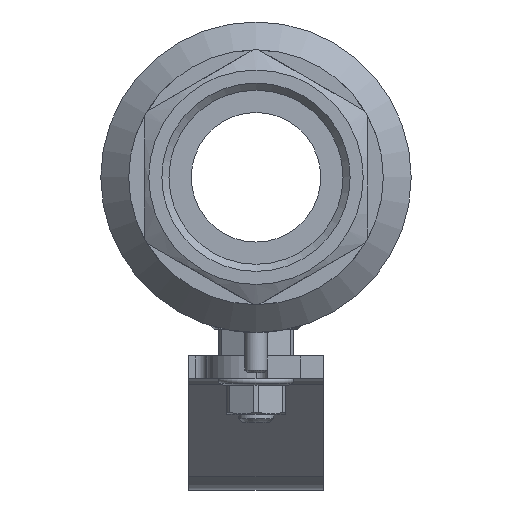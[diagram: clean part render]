
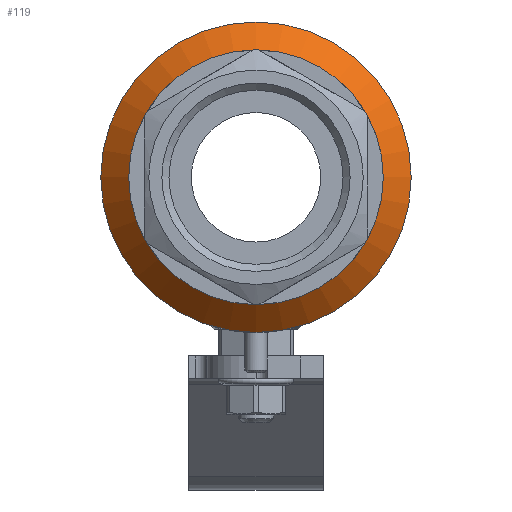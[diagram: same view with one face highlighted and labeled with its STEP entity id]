
A CAD part, left-side view. The second image highlights one B-rep face of the part: STEP entity #119.
In plain terms, the highlighted conical face has half-angle 45 degrees and reference radius 31.625 mm.
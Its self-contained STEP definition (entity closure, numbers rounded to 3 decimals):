
#119=ADVANCED_FACE('',(#798),#800,.T.);
#798=FACE_OUTER_BOUND('',#799,.T.);
#799=EDGE_LOOP('',(#1825,#1826,#1827,#1828,#1829));
#800=CONICAL_SURFACE('',#801,31.625,0.785);
#801=AXIS2_PLACEMENT_3D('',#802,#803,#804);
#802=CARTESIAN_POINT('',(-22.875,0.,0.));
#803=DIRECTION('',(1.,0.,0.));
#804=DIRECTION('',(0.,1.,0.));
#1825=ORIENTED_EDGE('',*,*,#2670,.F.);
#1826=ORIENTED_EDGE('',*,*,#2671,.T.);
#1827=ORIENTED_EDGE('',*,*,#2650,.T.);
#1828=ORIENTED_EDGE('',*,*,#2671,.F.);
#1829=ORIENTED_EDGE('',*,*,#2672,.F.);
#2650=EDGE_CURVE('',#3002,#3002,#3004,.T.);
#2670=EDGE_CURVE('',#3028,#3029,#3030,.T.);
#2671=EDGE_CURVE('',#3028,#3002,#3031,.T.);
#2672=EDGE_CURVE('',#3029,#3028,#3032,.T.);
#3002=VERTEX_POINT('',#4156);
#3004=CIRCLE('',#4160,34.75);
#3028=VERTEX_POINT('',#4487);
#3029=VERTEX_POINT('',#4488);
#3030=CIRCLE('',#4489,28.5);
#3031=LINE('',#4493,#4494);
#3032=CIRCLE('',#4496,28.5);
#4156=CARTESIAN_POINT('',(-19.75,-34.75,0.));
#4160=AXIS2_PLACEMENT_3D('',#4161,#4162,#4163);
#4161=CARTESIAN_POINT('',(-19.75,0.,0.));
#4162=DIRECTION('',(-1.,-0.,0.));
#4163=DIRECTION('',(0.,-1.,0.));
#4487=CARTESIAN_POINT('',(-26.,-28.5,0.));
#4488=CARTESIAN_POINT('',(-26.,0.,-28.5));
#4489=AXIS2_PLACEMENT_3D('',#4490,#4491,#4492);
#4490=CARTESIAN_POINT('',(-26.,0.,0.));
#4491=DIRECTION('',(-1.,-0.,0.));
#4492=DIRECTION('',(0.,-1.,0.));
#4493=CARTESIAN_POINT('',(-26.,-28.5,0.));
#4494=VECTOR('',#4495,1.);
#4495=DIRECTION('',(0.707,-0.707,0.));
#4496=AXIS2_PLACEMENT_3D('',#4497,#4498,#4499);
#4497=CARTESIAN_POINT('',(-26.,0.,0.));
#4498=DIRECTION('',(-1.,-0.,0.));
#4499=DIRECTION('',(0.,0.,-1.));
